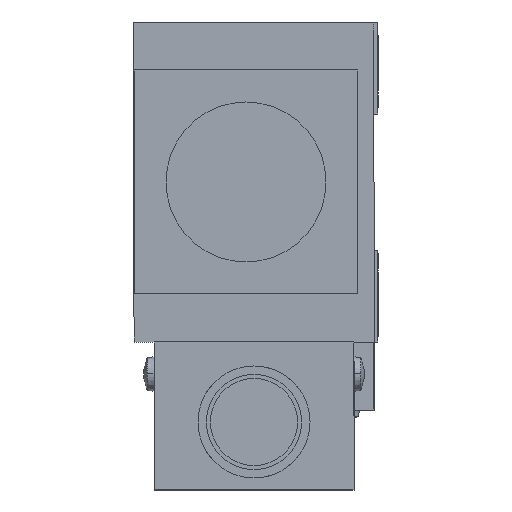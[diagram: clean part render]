
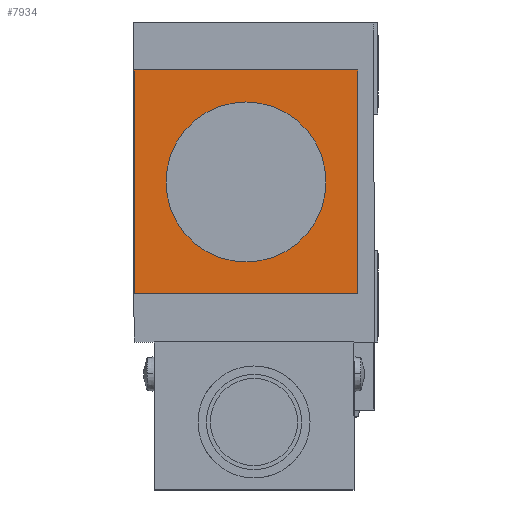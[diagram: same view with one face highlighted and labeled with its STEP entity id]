
A CAD part, left-side view. The second image highlights one B-rep face of the part: STEP entity #7934.
In plain terms, the highlighted planar face has unit normal (-1, 0, 0).
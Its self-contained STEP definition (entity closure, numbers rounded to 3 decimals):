
#6006 = CARTESIAN_POINT ( 'NONE',  ( -84., 30.5, -34. ) ) ;
#6135 = CARTESIAN_POINT ( 'NONE',  ( -84., 30.5, -6. ) ) ;
#6148 = VECTOR ( 'NONE', #6164, 1000. ) ;
#6163 = PLANE ( 'NONE',  #6222 ) ;
#6164 = DIRECTION ( 'NONE',  ( 0., 1., 0. ) ) ;
#6165 = FACE_BOUND ( 'NONE', #7895, .T. ) ;
#6166 = CARTESIAN_POINT ( 'NONE',  ( -84., 30.5, -6. ) ) ;
#6167 = LINE ( 'NONE', #6166, #6148 ) ;
#6174 = FACE_OUTER_BOUND ( 'NONE', #7946, .T. ) ;
#6175 = DIRECTION ( 'NONE',  ( 0., 0., -1. ) ) ;
#6176 = VECTOR ( 'NONE', #6175, 1000. ) ;
#6181 = CARTESIAN_POINT ( 'NONE',  ( -84., 29., -20. ) ) ;
#6185 = CARTESIAN_POINT ( 'NONE',  ( -84., 30.5, -6. ) ) ;
#6186 = LINE ( 'NONE', #6185, #6176 ) ;
#6187 = CARTESIAN_POINT ( 'NONE',  ( -84., 2.5, -6. ) ) ;
#6200 = CARTESIAN_POINT ( 'NONE',  ( -84., 2.5, -34. ) ) ;
#6215 = DIRECTION ( 'NONE',  ( 0., 0., -1. ) ) ;
#6216 = DIRECTION ( 'NONE',  ( 1., 0., 0. ) ) ;
#6222 = AXIS2_PLACEMENT_3D ( 'NONE', #6181, #6216, #6215 ) ;
#6227 = DIRECTION ( 'NONE',  ( 0., 0., 1. ) ) ;
#6228 = VECTOR ( 'NONE', #6227, 1000. ) ;
#6229 = CARTESIAN_POINT ( 'NONE',  ( -84., 2.5, -6. ) ) ;
#6230 = LINE ( 'NONE', #6229, #6228 ) ;
#6271 = DIRECTION ( 'NONE',  ( 0., -1., 0. ) ) ;
#6272 = VECTOR ( 'NONE', #6271, 1000. ) ;
#6273 = CARTESIAN_POINT ( 'NONE',  ( -84., 30.5, -34. ) ) ;
#6274 = LINE ( 'NONE', #6273, #6272 ) ;
#7825 = VERTEX_POINT ( 'NONE', #6006 ) ;
#7877 = ORIENTED_EDGE ( 'NONE', *, *, #9953, .T. ) ;
#7895 = EDGE_LOOP ( 'NONE', ( #7928, #7877 ) ) ;
#7904 = VERTEX_POINT ( 'NONE', #6135 ) ;
#7915 = VERTEX_POINT ( 'NONE', #6187 ) ;
#7918 = ORIENTED_EDGE ( 'NONE', *, *, #7975, .T. ) ;
#7922 = ORIENTED_EDGE ( 'NONE', *, *, #7932, .T. ) ;
#7924 = EDGE_CURVE ( 'NONE', #7904, #7825, #6186, .T. ) ;
#7927 = ORIENTED_EDGE ( 'NONE', *, *, #7924, .T. ) ;
#7928 = ORIENTED_EDGE ( 'NONE', *, *, #9873, .T. ) ;
#7932 = EDGE_CURVE ( 'NONE', #7915, #7904, #6167, .T. ) ;
#7934 = ADVANCED_FACE ( 'NONE', ( #6165, #6174 ), #6163, .F. ) ;
#7946 = EDGE_LOOP ( 'NONE', ( #7922, #7927, #7918, #7961 ) ) ;
#7957 = VERTEX_POINT ( 'NONE', #6200 ) ;
#7961 = ORIENTED_EDGE ( 'NONE', *, *, #7962, .T. ) ;
#7962 = EDGE_CURVE ( 'NONE', #7957, #7915, #6230, .T. ) ;
#7975 = EDGE_CURVE ( 'NONE', #7825, #7957, #6274, .T. ) ;
#8510 = CARTESIAN_POINT ( 'NONE',  ( -84., 16.5, -17.5 ) ) ;
#8524 = CIRCLE ( 'NONE', #8559, 2.5 ) ;
#8557 = DIRECTION ( 'NONE',  ( 0., 0., -1. ) ) ;
#8558 = DIRECTION ( 'NONE',  ( 1., 0., 0. ) ) ;
#8559 = AXIS2_PLACEMENT_3D ( 'NONE', #8565, #8558, #8557 ) ;
#8565 = CARTESIAN_POINT ( 'NONE',  ( -84., 16.5, -20. ) ) ;
#8611 = CARTESIAN_POINT ( 'NONE',  ( -84., 16.5, -22.5 ) ) ;
#8683 = CARTESIAN_POINT ( 'NONE',  ( -84., 16.5, -20. ) ) ;
#8694 = DIRECTION ( 'NONE',  ( 1., 0., 0. ) ) ;
#8736 = DIRECTION ( 'NONE',  ( 0., 0., -1. ) ) ;
#8737 = AXIS2_PLACEMENT_3D ( 'NONE', #8683, #8694, #8736 ) ;
#8738 = CIRCLE ( 'NONE', #8737, 2.5 ) ;
#9851 = VERTEX_POINT ( 'NONE', #8510 ) ;
#9873 = EDGE_CURVE ( 'NONE', #9887, #9851, #8524, .T. ) ;
#9887 = VERTEX_POINT ( 'NONE', #8611 ) ;
#9953 = EDGE_CURVE ( 'NONE', #9851, #9887, #8738, .T. ) ;
